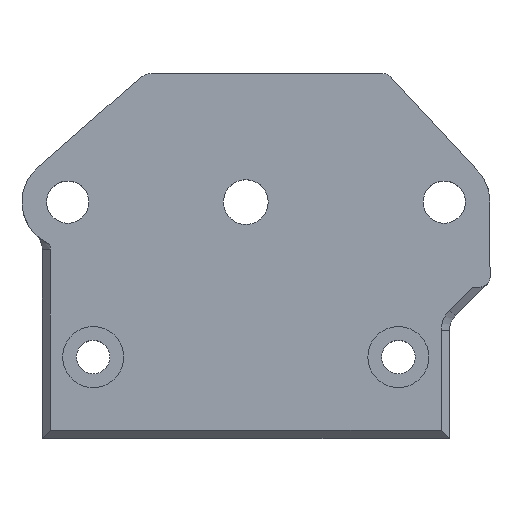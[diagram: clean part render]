
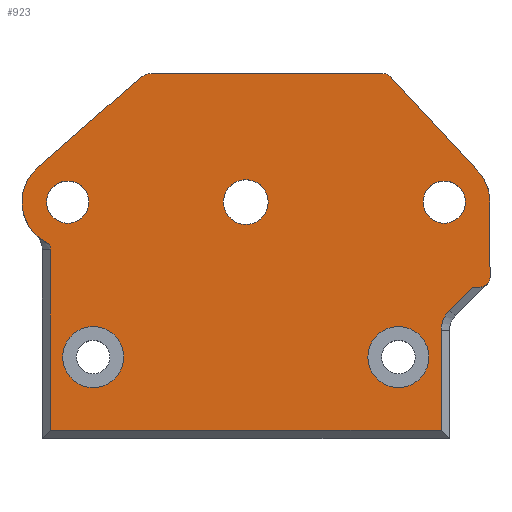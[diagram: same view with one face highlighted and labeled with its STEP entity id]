
A CAD part, top view. The second image highlights one B-rep face of the part: STEP entity #923.
In plain terms, the highlighted planar face has unit normal (0, 0, 1).
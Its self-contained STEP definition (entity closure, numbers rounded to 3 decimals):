
#24=FACE_BOUND('',#159,.T.);
#25=FACE_BOUND('',#160,.T.);
#26=FACE_BOUND('',#161,.T.);
#27=FACE_BOUND('',#162,.T.);
#28=FACE_BOUND('',#163,.T.);
#39=PLANE('',#999);
#101=FACE_OUTER_BOUND('',#158,.T.);
#158=EDGE_LOOP('',(#675,#676,#677,#678,#679,#680,#681,#682,#683,#684,#685,
#686,#687,#688,#689,#690));
#159=EDGE_LOOP('',(#691));
#160=EDGE_LOOP('',(#692));
#161=EDGE_LOOP('',(#693));
#162=EDGE_LOOP('',(#694));
#163=EDGE_LOOP('',(#695));
#231=LINE('',#1465,#309);
#232=LINE('',#1467,#310);
#233=LINE('',#1469,#311);
#234=LINE('',#1473,#312);
#235=LINE('',#1475,#313);
#236=LINE('',#1478,#314);
#237=LINE('',#1480,#315);
#238=LINE('',#1484,#316);
#239=LINE('',#1487,#317);
#309=VECTOR('',#1148,10.);
#310=VECTOR('',#1149,10.);
#311=VECTOR('',#1150,10.);
#312=VECTOR('',#1153,10.);
#313=VECTOR('',#1154,10.);
#314=VECTOR('',#1157,10.);
#315=VECTOR('',#1158,10.);
#316=VECTOR('',#1161,10.);
#317=VECTOR('',#1164,10.);
#378=CIRCLE('',#979,2.075);
#381=CIRCLE('',#984,2.075);
#384=CIRCLE('',#989,4.5);
#387=CIRCLE('',#996,4.5);
#388=CIRCLE('',#1000,2.8);
#389=CIRCLE('',#1001,2.8);
#390=CIRCLE('',#1002,1.);
#391=CIRCLE('',#1003,1.);
#392=CIRCLE('',#1004,2.);
#393=CIRCLE('',#1005,2.2);
#394=CIRCLE('',#1006,3.);
#395=CIRCLE('',#1007,3.);
#420=VERTEX_POINT('',#1381);
#423=VERTEX_POINT('',#1391);
#430=VERTEX_POINT('',#1418);
#431=VERTEX_POINT('',#1427);
#438=VERTEX_POINT('',#1448);
#439=VERTEX_POINT('',#1450);
#443=VERTEX_POINT('',#1462);
#444=VERTEX_POINT('',#1464);
#445=VERTEX_POINT('',#1466);
#446=VERTEX_POINT('',#1468);
#447=VERTEX_POINT('',#1470);
#448=VERTEX_POINT('',#1472);
#449=VERTEX_POINT('',#1474);
#450=VERTEX_POINT('',#1476);
#451=VERTEX_POINT('',#1479);
#452=VERTEX_POINT('',#1481);
#453=VERTEX_POINT('',#1483);
#454=VERTEX_POINT('',#1485);
#455=VERTEX_POINT('',#1488);
#456=VERTEX_POINT('',#1490);
#457=VERTEX_POINT('',#1492);
#504=EDGE_CURVE('',#420,#420,#378,.T.);
#509=EDGE_CURVE('',#423,#423,#381,.T.);
#517=EDGE_CURVE('',#430,#431,#384,.T.);
#526=EDGE_CURVE('',#439,#438,#387,.T.);
#532=EDGE_CURVE('',#443,#430,#388,.T.);
#533=EDGE_CURVE('',#444,#443,#231,.T.);
#534=EDGE_CURVE('',#445,#444,#232,.T.);
#535=EDGE_CURVE('',#446,#445,#233,.T.);
#536=EDGE_CURVE('',#447,#446,#389,.T.);
#537=EDGE_CURVE('',#448,#447,#234,.T.);
#538=EDGE_CURVE('',#449,#448,#235,.T.);
#539=EDGE_CURVE('',#450,#449,#390,.T.);
#540=EDGE_CURVE('',#450,#439,#236,.T.);
#541=EDGE_CURVE('',#438,#451,#237,.T.);
#542=EDGE_CURVE('',#451,#452,#391,.T.);
#543=EDGE_CURVE('',#452,#453,#238,.T.);
#544=EDGE_CURVE('',#453,#454,#392,.T.);
#545=EDGE_CURVE('',#454,#431,#239,.T.);
#546=EDGE_CURVE('',#455,#455,#393,.T.);
#547=EDGE_CURVE('',#456,#456,#394,.T.);
#548=EDGE_CURVE('',#457,#457,#395,.T.);
#675=ORIENTED_EDGE('',*,*,#517,.F.);
#676=ORIENTED_EDGE('',*,*,#532,.F.);
#677=ORIENTED_EDGE('',*,*,#533,.F.);
#678=ORIENTED_EDGE('',*,*,#534,.F.);
#679=ORIENTED_EDGE('',*,*,#535,.F.);
#680=ORIENTED_EDGE('',*,*,#536,.F.);
#681=ORIENTED_EDGE('',*,*,#537,.F.);
#682=ORIENTED_EDGE('',*,*,#538,.F.);
#683=ORIENTED_EDGE('',*,*,#539,.F.);
#684=ORIENTED_EDGE('',*,*,#540,.T.);
#685=ORIENTED_EDGE('',*,*,#526,.T.);
#686=ORIENTED_EDGE('',*,*,#541,.T.);
#687=ORIENTED_EDGE('',*,*,#542,.T.);
#688=ORIENTED_EDGE('',*,*,#543,.T.);
#689=ORIENTED_EDGE('',*,*,#544,.T.);
#690=ORIENTED_EDGE('',*,*,#545,.T.);
#691=ORIENTED_EDGE('',*,*,#504,.T.);
#692=ORIENTED_EDGE('',*,*,#509,.T.);
#693=ORIENTED_EDGE('',*,*,#546,.T.);
#694=ORIENTED_EDGE('',*,*,#547,.T.);
#695=ORIENTED_EDGE('',*,*,#548,.T.);
#923=ADVANCED_FACE('',(#101,#24,#25,#26,#27,#28),#39,.T.);
#979=AXIS2_PLACEMENT_3D('',#1383,#1095,#1096);
#984=AXIS2_PLACEMENT_3D('',#1393,#1107,#1108);
#989=AXIS2_PLACEMENT_3D('',#1428,#1118,#1119);
#996=AXIS2_PLACEMENT_3D('',#1451,#1134,#1135);
#999=AXIS2_PLACEMENT_3D('',#1461,#1144,#1145);
#1000=AXIS2_PLACEMENT_3D('',#1463,#1146,#1147);
#1001=AXIS2_PLACEMENT_3D('',#1471,#1151,#1152);
#1002=AXIS2_PLACEMENT_3D('',#1477,#1155,#1156);
#1003=AXIS2_PLACEMENT_3D('',#1482,#1159,#1160);
#1004=AXIS2_PLACEMENT_3D('',#1486,#1162,#1163);
#1005=AXIS2_PLACEMENT_3D('',#1489,#1165,#1166);
#1006=AXIS2_PLACEMENT_3D('',#1491,#1167,#1168);
#1007=AXIS2_PLACEMENT_3D('',#1493,#1169,#1170);
#1095=DIRECTION('center_axis',(0.,0.,-1.));
#1096=DIRECTION('ref_axis',(-1.,0.,0.));
#1107=DIRECTION('center_axis',(0.,0.,-1.));
#1108=DIRECTION('ref_axis',(-1.,0.,0.));
#1118=DIRECTION('center_axis',(0.,0.,-1.));
#1119=DIRECTION('ref_axis',(-0.66,0.751,0.));
#1134=DIRECTION('center_axis',(0.,0.,1.));
#1135=DIRECTION('ref_axis',(1.,0.,0.));
#1144=DIRECTION('center_axis',(0.,0.,1.));
#1145=DIRECTION('ref_axis',(-1.,0.,0.));
#1146=DIRECTION('center_axis',(0.,0.,1.));
#1147=DIRECTION('ref_axis',(0.92,0.392,0.));
#1148=DIRECTION('',(0.,1.,0.));
#1149=DIRECTION('',(-1.,0.,0.));
#1150=DIRECTION('',(0.,-1.,0.));
#1151=DIRECTION('center_axis',(0.,0.,1.));
#1152=DIRECTION('ref_axis',(-0.924,0.383,0.));
#1153=DIRECTION('',(-0.707,-0.707,0.));
#1154=DIRECTION('',(-1.,0.,0.));
#1155=DIRECTION('center_axis',(0.,0.,-1.));
#1156=DIRECTION('ref_axis',(0.,-1.,0.));
#1157=DIRECTION('',(0.,1.,0.));
#1158=DIRECTION('',(-0.681,0.732,0.));
#1159=DIRECTION('center_axis',(0.,0.,1.));
#1160=DIRECTION('ref_axis',(0.732,0.681,0.));
#1161=DIRECTION('',(-1.,0.,0.));
#1162=DIRECTION('center_axis',(0.,0.,1.));
#1163=DIRECTION('ref_axis',(0.,1.,0.));
#1164=DIRECTION('',(-0.751,-0.66,0.));
#1165=DIRECTION('center_axis',(0.,0.,-1.));
#1166=DIRECTION('ref_axis',(-1.,0.,0.));
#1167=DIRECTION('center_axis',(0.,0.,-1.));
#1168=DIRECTION('ref_axis',(1.,0.,0.));
#1169=DIRECTION('center_axis',(0.,0.,-1.));
#1170=DIRECTION('ref_axis',(1.,0.,0.));
#1381=CARTESIAN_POINT('',(1.576,-19.303,48.875));
#1383=CARTESIAN_POINT('Origin',(-0.499,-19.303,48.875));
#1391=CARTESIAN_POINT('',(-35.424,-19.303,48.875));
#1393=CARTESIAN_POINT('Origin',(-37.499,-19.303,48.875));
#1418=CARTESIAN_POINT('',(-39.254,-23.447,48.875));
#1427=CARTESIAN_POINT('',(-40.468,-15.922,48.875));
#1428=CARTESIAN_POINT('Origin',(-37.499,-19.303,48.875));
#1448=CARTESIAN_POINT('',(2.796,-16.238,48.875));
#1450=CARTESIAN_POINT('',(4.001,-19.303,48.875));
#1451=CARTESIAN_POINT('Origin',(-0.499,-19.303,48.875));
#1461=CARTESIAN_POINT('Origin',(-18.999,-24.595,48.875));
#1462=CARTESIAN_POINT('',(-39.2,-23.993,48.875));
#1463=CARTESIAN_POINT('Origin',(-42.,-23.993,48.875));
#1464=CARTESIAN_POINT('',(-39.2,-41.733,48.875));
#1465=CARTESIAN_POINT('',(-39.2,-23.82,48.875));
#1466=CARTESIAN_POINT('',(-0.8,-41.733,48.875));
#1467=CARTESIAN_POINT('',(-29.5,-41.733,48.875));
#1468=CARTESIAN_POINT('',(-0.8,-31.899,48.875));
#1469=CARTESIAN_POINT('',(-0.8,-33.564,48.875));
#1470=CARTESIAN_POINT('',(0.02,-29.919,48.875));
#1471=CARTESIAN_POINT('Origin',(2.,-31.899,48.875));
#1472=CARTESIAN_POINT('',(2.284,-27.656,48.875));
#1473=CARTESIAN_POINT('',(-3.696,-33.636,48.875));
#1474=CARTESIAN_POINT('',(3.001,-27.656,48.875));
#1475=CARTESIAN_POINT('',(-22.666,-27.656,48.875));
#1476=CARTESIAN_POINT('',(4.001,-26.656,48.875));
#1477=CARTESIAN_POINT('Origin',(3.001,-26.656,48.875));
#1478=CARTESIAN_POINT('',(4.001,-19.303,48.875));
#1479=CARTESIAN_POINT('',(-5.821,-6.975,48.875));
#1480=CARTESIAN_POINT('',(-5.821,-6.975,48.875));
#1481=CARTESIAN_POINT('',(-6.553,-6.656,48.875));
#1482=CARTESIAN_POINT('Origin',(-6.553,-7.656,48.875));
#1483=CARTESIAN_POINT('',(-29.161,-6.656,48.875));
#1484=CARTESIAN_POINT('',(-29.161,-6.656,48.875));
#1485=CARTESIAN_POINT('',(-30.481,-7.153,48.875));
#1486=CARTESIAN_POINT('Origin',(-29.161,-8.656,48.875));
#1487=CARTESIAN_POINT('',(-40.468,-15.922,48.875));
#1488=CARTESIAN_POINT('',(-17.8,-19.3,48.875));
#1489=CARTESIAN_POINT('Origin',(-20.,-19.3,48.875));
#1490=CARTESIAN_POINT('',(-8.,-34.533,48.875));
#1491=CARTESIAN_POINT('Origin',(-5.,-34.533,48.875));
#1492=CARTESIAN_POINT('',(-38.,-34.533,48.875));
#1493=CARTESIAN_POINT('Origin',(-35.,-34.533,48.875));
